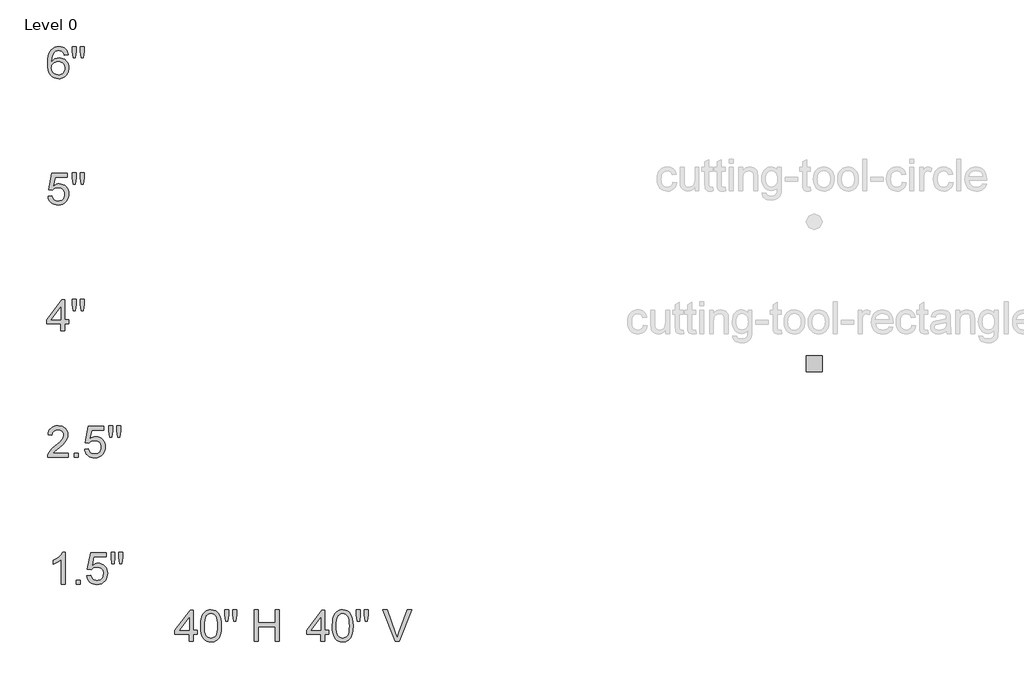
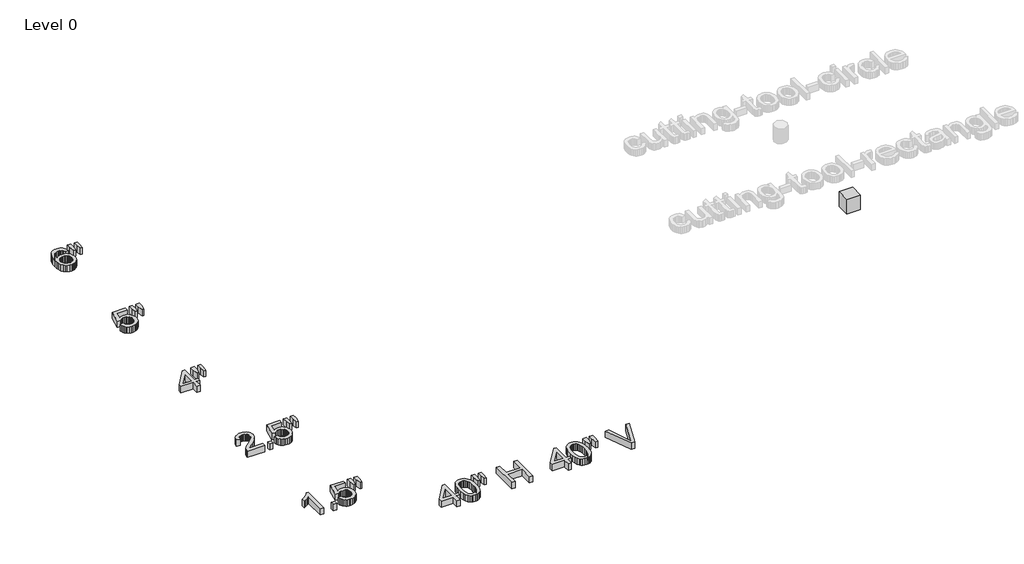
# One storey, part 1 of 3: 8 proxies.
"""IFC4 building model written with IfcOpenShell, lengths in millimetres."""

from ifc_helpers import new_model, si_unit, origin, origin_with_axes, place, context, project, spatial, polyline, outline, extrude, transform, mapped, element, save
from components import kingspan_ks_cutting_tool_rectangle_cutting_tool_rectangle_f435e5aa

model = new_model("IFC4")

# Units and contexts
model_context = context("Model", 3, world=origin())
ifc_project = project(units=[si_unit("LENGTHUNIT", "METRE", prefix="MILLI")], contexts=[model_context])

# Site, building, storey
site = spatial("IfcSite", under=ifc_project)
building = spatial("IfcBuilding", under=site)
storey = spatial("IfcBuildingStorey", under=building, Name="Level 0", Elevation=0.0)

# Proxies
placement = place(None, origin())
element("IfcBuildingElementProxy", 1, Name="24\" Arial", ObjectType="24\" Arial", at=placement, inside=storey, context=model_context, shape_type="SweptSolid", body=[
    extrude(outline(polyline([(-11504.7389752, 3788.2309385), (-11580.8807487, 3788.2309385), (-11580.8807487, 4262.9273078), (-11612.668452, 4237.2183056), (-11653.0072334, 4211.5464821), (-11695.3536592, 4189.1091968), (-11733.1642957, 4173.1038093), (-11733.1642957, 4245.0815796), (-11673.3625171, 4277.6128549), (-11621.5541375, 4316.3157779), (-11580.713445, 4357.4724884), (-11553.8147277, 4397.3651266), (-11504.7389752, 4397.3651266), (-11504.7389752, 3788.2309385)])), origin_with_axes(), (0.0, 0.0, 1.0), 152.4),
    extrude(outline(polyline([(-11285.8313763, 3788.2309385), (-11285.8313763, 3864.372712), (-11209.6896028, 3864.372712), (-11209.6896028, 3788.2309385), (-11285.8313763, 3788.2309385)])), origin_with_axes(), (0.0, 0.0, 1.0), 152.4),
    extrude(outline(polyline([(-11085.9592209, 3950.0322072), (-11009.8174473, 3959.5499289), (-11004.1291215, 3935.0724679), (-10995.8382936, 3913.8388398), (-10984.9449637, 3895.8490445), (-10971.4491318, 3881.1030822), (-10955.3786818, 3869.619542), (-10936.7614976, 3861.4170133), (-10915.5975794, 3856.4954961), (-10891.886927, 3854.8549903), (-10862.8876187, 3857.1368269), (-10837.3087417, 3863.9823367), (-10815.1502959, 3875.3915197), (-10796.4122813, 3891.3643759), (-10781.5129572, 3911.11086), (-10770.8705829, 3933.8409268), (-10764.4851583, 3959.5545762), (-10762.3566834, 3988.2518084), (-10764.3503858, 4015.3735973), (-10770.3314932, 4039.4839196), (-10780.3000054, 4060.5827753), (-10794.2559225, 4078.6701644), (-10812.2457177, 4093.1791132), (-10834.3158644, 4103.5426481), (-10860.4663624, 4109.760769), (-10890.6972118, 4111.8334759), (-10927.6341513, 4108.5245805), (-10957.5443352, 4098.5978942), (-10981.431586, 4083.3918467), (-11000.2997256, 4064.2448675), (-11076.4414992, 4073.7625892), (-11009.8174473, 4387.8474049), (-10714.768075, 4387.8474049), (-10714.768075, 4311.7056314), (-10948.2496852, 4311.7056314), (-10980.8181391, 4143.9557866), (-10953.9473057, 4163.2143016), (-10926.4258467, 4176.9703837), (-10898.2537623, 4185.224033), (-10869.4310524, 4187.9752494), (-10832.3500459, 4184.5641129), (-10798.2898006, 4174.3307031), (-10767.2503167, 4157.2750202), (-10739.231594, 4133.3970641), (-10716.0367947, 4104.156095), (-10699.4690809, 4071.0113727), (-10689.5284526, 4033.9628975), (-10686.2149099, 3993.0106692), (-10689.1984926, 3953.5641742), (-10698.1492406, 3916.8688957), (-10713.067154, 3882.9248336), (-10733.9522327, 3851.7319879), (-10765.5912216, 3819.7862755), (-10802.5095718, 3796.9679096), (-10844.7072832, 3783.27689), (-10892.1843558, 3778.7132168), (-10931.4774891, 3781.6456789), (-10966.9691104, 3790.4430652), (-10998.6592199, 3805.1053757), (-11026.5478175, 3825.6326104), (-11049.7519114, 3851.0023578), (-11067.38851, 3880.1922064), (-11079.4576131, 3913.2021562), (-11085.9592209, 3950.0322072)])), origin_with_axes(), (0.0, 0.0, 1.0), 152.4),
    extrude(outline(polyline([(-10601.0015579, 4178.4575278), (-10619.5908581, 4296.0906193), (-10619.5908581, 4397.3651266), (-10543.4490845, 4397.3651266), (-10543.4490845, 4296.0906193), (-10560.1050975, 4178.4575278), (-10601.0015579, 4178.4575278)])), origin_with_axes(), (0.0, 0.0, 1.0), 152.4),
    extrude(outline(polyline([(-10449.1641541, 4178.4575278), (-10467.307311, 4296.0906193), (-10467.307311, 4397.3651266), (-10391.1655375, 4397.3651266), (-10391.1655375, 4296.0906193), (-10409.0112657, 4178.4575278), (-10449.1641541, 4178.4575278)])), origin_with_axes(), (0.0, 0.0, 1.0), 152.4),
])
element("IfcBuildingElementProxy", 2, Name="24\" Arial", ObjectType="24\" Arial", at=placement, inside=storey, context=model_context, shape_type="SweptSolid", body=[
    extrude(outline(polyline([(-11444.0756511, 6305.7351224), (-11444.0756511, 6229.5933489), (-11843.8199621, 6229.5933489), (-11842.146925, 6256.3991197), (-11835.64067, 6282.0895326), (-11816.8654768, 6323.1161181), (-11789.3904911, 6362.9158097), (-11749.6465674, 6404.5744314), (-11694.0645598, 6451.177807), (-11611.8998531, 6524.1593994), (-11562.601029, 6578.0311914), (-11548.2222053, 6600.0409228), (-11537.951617, 6621.7532254), (-11531.789264, 6643.1680992), (-11529.7351463, 6664.2855442), (-11531.6730808, 6684.1528587), (-11537.4868845, 6702.4121988), (-11547.1765572, 6719.0635645), (-11560.742099, 6734.1069556), (-11577.4306432, 6746.5664341), (-11596.4893232, 6755.4660615), (-11617.918139, 6760.805838), (-11641.7170906, 6762.5857635), (-11666.7894092, 6760.8476639), (-11689.2127525, 6755.6333652), (-11708.9871206, 6746.9428674), (-11726.1125133, 6734.7761704), (-11739.9661893, 6719.5422389), (-11749.9254069, 6701.6500375), (-11755.9901661, 6681.0995662), (-11758.1604669, 6657.8908249), (-11834.3022404, 6667.4085466), (-11827.7541594, 6706.7156218), (-11815.8430653, 6741.0593539), (-11798.5689581, 6770.4397428), (-11775.9318378, 6794.8567886), (-11748.4522048, 6814.050241), (-11716.6505596, 6827.7598499), (-11680.526902, 6835.9856152), (-11640.0812321, 6838.727537), (-11599.2730709, 6835.6788918), (-11562.9542257, 6826.5329561), (-11531.1246965, 6811.28973), (-11503.7844833, 6789.9492134), (-11481.8258724, 6764.0914968), (-11466.1411504, 6735.2966708), (-11456.7303172, 6703.5647354), (-11453.5933728, 6668.8956906), (-11456.9766254, 6632.4792516), (-11467.1263833, 6596.6948487), (-11485.1394152, 6560.296999), (-11512.1124897, 6522.0402192), (-11555.109541, 6476.3663087), (-11621.1945032, 6417.7170666), (-11708.7872856, 6344.475224), (-11743.1403123, 6305.7351224), (-11444.0756511, 6305.7351224)])), origin_with_axes(), (0.0, 0.0, 1.0), 152.4),
    extrude(outline(polyline([(-11329.8629908, 6229.5933489), (-11329.8629908, 6305.7351224), (-11253.7212173, 6305.7351224), (-11253.7212173, 6229.5933489), (-11329.8629908, 6229.5933489)])), origin_with_axes(), (0.0, 0.0, 1.0), 152.4),
    extrude(outline(polyline([(-11129.9908353, 6391.3946176), (-11053.8490618, 6400.9123393), (-11048.160736, 6376.4348783), (-11039.8699081, 6355.2012502), (-11028.9765782, 6337.2114549), (-11015.4807463, 6322.4654925), (-10999.4102963, 6310.9819524), (-10980.7931121, 6302.7794237), (-10959.6291939, 6297.8579064), (-10935.9185415, 6296.2174007), (-10906.9192332, 6298.4992373), (-10881.3403562, 6305.3447471), (-10859.1819104, 6316.7539301), (-10840.4438958, 6332.7267862), (-10825.5445717, 6352.4732704), (-10814.9021974, 6375.2033371), (-10808.5167728, 6400.9169866), (-10806.3882979, 6429.6142188), (-10808.3820003, 6456.7360077), (-10814.3631077, 6480.84633), (-10824.3316199, 6501.9451857), (-10838.287537, 6520.0325748), (-10856.2773322, 6534.5415236), (-10878.3474789, 6544.9050584), (-10904.4979769, 6551.1231794), (-10934.7288263, 6553.1958863), (-10971.6657657, 6549.8869909), (-11001.5759497, 6539.9603046), (-11025.4632005, 6524.7542571), (-11044.3313401, 6505.6072779), (-11120.4731136, 6515.1249996), (-11053.8490618, 6829.2098153), (-10758.7996894, 6829.2098153), (-10758.7996894, 6753.0680418), (-10992.2812996, 6753.0680418), (-11024.8497535, 6585.318197), (-10997.9789201, 6604.576712), (-10970.4574612, 6618.3327941), (-10942.2853768, 6626.5864434), (-10913.4626669, 6629.3376598), (-10876.3816604, 6625.9265233), (-10842.3214151, 6615.6931135), (-10811.2819312, 6598.6374306), (-10783.2632085, 6574.7594745), (-10760.0684092, 6545.5185053), (-10743.5006954, 6512.3737831), (-10733.5600671, 6475.3253079), (-10730.2465244, 6434.3730796), (-10733.230107, 6394.9265846), (-10742.1808551, 6358.2313061), (-10757.0987685, 6324.287244), (-10777.9838472, 6293.0943983), (-10809.6228361, 6261.1486859), (-10846.5411863, 6238.33032), (-10888.7388977, 6224.6393004), (-10936.2159703, 6220.0756272), (-10975.5091036, 6223.0080893), (-11011.0007249, 6231.8054756), (-11042.6908344, 6246.4677861), (-11070.579432, 6266.9950208), (-11093.7835259, 6292.3647682), (-11111.4201245, 6321.5546168), (-11123.4892276, 6354.5645666), (-11129.9908353, 6391.3946176)])), origin_with_axes(), (0.0, 0.0, 1.0), 152.4),
    extrude(outline(polyline([(-10645.0331724, 6619.8199381), (-10663.6224725, 6737.4530297), (-10663.6224725, 6838.727537), (-10587.480699, 6838.727537), (-10587.480699, 6737.4530297), (-10604.136712, 6619.8199381), (-10645.0331724, 6619.8199381)])), origin_with_axes(), (0.0, 0.0, 1.0), 152.4),
    extrude(outline(polyline([(-10493.1957685, 6619.8199381), (-10511.3389255, 6737.4530297), (-10511.3389255, 6838.727537), (-10435.197152, 6838.727537), (-10435.197152, 6737.4530297), (-10453.0428802, 6619.8199381), (-10493.1957685, 6619.8199381)])), origin_with_axes(), (0.0, 0.0, 1.0), 152.4),
])
element("IfcBuildingElementProxy", 3, Name="24\" Arial", ObjectType="24\" Arial", at=placement, inside=storey, context=model_context, shape_type="SweptSolid", body=[
    extrude(outline(polyline([(-9111.1054643, 2680.3448347), (-9111.1054643, 2823.1106601), (-9387.1193933, 2823.1106601), (-9387.1193933, 2899.2524336), (-9092.0700209, 3279.9613012), (-9034.9636908, 3279.9613012), (-9034.9636908, 2899.2524336), (-8958.8219173, 2899.2524336), (-8958.8219173, 2823.1106601), (-9034.9636908, 2823.1106601), (-9034.9636908, 2680.3448347), (-9111.1054643, 2680.3448347)]), holes=[polyline([(-9111.1054643, 2899.2524336), (-9111.1054643, 3134.5186166), (-9293.4293204, 2899.2524336), (-9111.1054643, 2899.2524336)])]), origin_with_axes(), (0.0, 0.0, 1.0), 152.4),
    extrude(outline(polyline([(-8892.1978655, 2980.0043536), (-8886.6024861, 3077.505233), (-8879.6082619, 3118.8524839), (-8869.816348, 3155.2642756), (-8857.2685704, 3187.0380369), (-8842.006755, 3214.4711967), (-8824.0309017, 3237.5637548), (-8803.3410106, 3256.3157114), (-8779.8673718, 3270.8246601), (-8753.5402754, 3281.188195), (-8724.3597215, 3287.4063159), (-8692.32571, 3289.4790229), (-8645.4063163, 3284.5714476), (-8603.3944979, 3269.8487219), (-8568.2607206, 3245.887114), (-8541.9754502, 3213.2628921), (-8522.1220776, 3172.254896), (-8506.2839938, 3123.1419649), (-8495.9111643, 3060.7748628), (-8492.4535545, 2980.0043536), (-8497.9931659, 2883.0611531), (-8504.9176803, 2841.853322), (-8514.6120003, 2805.4880035), (-8527.0621841, 2773.7003002), (-8542.2542897, 2746.2253146), (-8560.188317, 2723.0630465), (-8580.8642661, 2704.2134962), (-8604.3657889, 2689.6069535), (-8630.7765371, 2679.1737088), (-8660.0965108, 2672.913762), (-8692.32571, 2670.827113), (-8734.2631712, 2674.4520266), (-8771.4417715, 2685.3267672), (-8803.861511, 2703.4513348), (-8831.5223897, 2728.8257296), (-8858.0679103, 2774.6948278), (-8877.0289965, 2831.8476312), (-8888.4056482, 2900.2841398), (-8892.1978655, 2980.0043536)]), holes=[polyline([(-8816.0560919, 2980.153068), (-8813.8253759, 2913.9612174), (-8807.1332279, 2860.3822069), (-8795.9796477, 2819.4160367), (-8780.3646356, 2791.0627066), (-8761.4779066, 2771.7716603), (-8740.509176, 2757.9923416), (-8717.4584438, 2749.7247503), (-8692.32571, 2746.9688866), (-8667.1929761, 2749.734045), (-8644.1422439, 2758.0295202), (-8623.1735133, 2771.8553122), (-8604.2867843, 2791.211421), (-8588.6717722, 2819.6112243), (-8577.5181921, 2860.5680999), (-8570.826044, 2914.0820478), (-8568.595328, 2980.153068), (-8570.7516868, 3044.592877), (-8577.2207633, 3097.2284805), (-8588.0025574, 3138.0598783), (-8603.0970691, 3167.0870705), (-8621.66778, 3187.3215238), (-8642.8781715, 3201.7747046), (-8666.7282436, 3210.4466132), (-8693.2179964, 3213.3372494), (-8718.2206051, 3210.7905152), (-8740.880962, 3203.1503129), (-8761.1990671, 3190.4166422), (-8779.1749204, 3172.5895034), (-8795.3104329, 3140.9876931), (-8806.835799, 3098.3810171), (-8813.7510187, 3044.7694754), (-8816.0560919, 2980.153068)])]), origin_with_axes(), (0.0, 0.0, 1.0), 152.4),
    extrude(outline(polyline([(-8407.2402025, 3070.571424), (-8425.8295027, 3188.2045155), (-8425.8295027, 3289.4790229), (-8349.6877291, 3289.4790229), (-8349.6877291, 3188.2045155), (-8366.3437421, 3070.571424), (-8407.2402025, 3070.571424)])), origin_with_axes(), (0.0, 0.0, 1.0), 152.4),
    extrude(outline(polyline([(-8255.4027987, 3070.571424), (-8273.5459556, 3188.2045155), (-8273.5459556, 3289.4790229), (-8197.4041821, 3289.4790229), (-8197.4041821, 3188.2045155), (-8215.2499103, 3070.571424), (-8255.4027987, 3070.571424)])), origin_with_axes(), (0.0, 0.0, 1.0), 152.4),
    extrude(outline(polyline([(-7854.7662013, 2680.3448347), (-7854.7662013, 3289.4790229), (-7778.6244278, 3289.4790229), (-7778.6244278, 3042.0182589), (-7455.0218903, 3042.0182589), (-7455.0218903, 3289.4790229), (-7378.8801168, 3289.4790229), (-7378.8801168, 2680.3448347), (-7455.0218903, 2680.3448347), (-7455.0218903, 2965.8764854), (-7778.6244278, 2965.8764854), (-7778.6244278, 2680.3448347), (-7854.7662013, 2680.3448347)])), origin_with_axes(), (0.0, 0.0, 1.0), 152.4),
])
element("IfcBuildingElementProxy", 4, Name="24\" Arial", ObjectType="24\" Arial", at=placement, inside=storey, context=model_context, shape_type="SweptSolid", body=[
    extrude(outline(polyline([(-6571.1054643, 2680.3448347), (-6571.1054643, 2823.1106601), (-6847.1193933, 2823.1106601), (-6847.1193933, 2899.2524336), (-6552.0700209, 3279.9613012), (-6494.9636908, 3279.9613012), (-6494.9636908, 2899.2524336), (-6418.8219173, 2899.2524336), (-6418.8219173, 2823.1106601), (-6494.9636908, 2823.1106601), (-6494.9636908, 2680.3448347), (-6571.1054643, 2680.3448347)]), holes=[polyline([(-6571.1054643, 2899.2524336), (-6571.1054643, 3134.5186166), (-6753.4293204, 2899.2524336), (-6571.1054643, 2899.2524336)])]), origin_with_axes(), (0.0, 0.0, 1.0), 152.4),
    extrude(outline(polyline([(-6352.1978655, 2980.0043536), (-6346.6024861, 3077.505233), (-6339.6082619, 3118.8524839), (-6329.816348, 3155.2642756), (-6317.2685704, 3187.0380369), (-6302.006755, 3214.4711967), (-6284.0309017, 3237.5637548), (-6263.3410106, 3256.3157114), (-6239.8673718, 3270.8246601), (-6213.5402754, 3281.188195), (-6184.3597215, 3287.4063159), (-6152.32571, 3289.4790229), (-6105.4063163, 3284.5714476), (-6063.3944979, 3269.8487219), (-6028.2607206, 3245.887114), (-6001.9754502, 3213.2628921), (-5982.1220776, 3172.254896), (-5966.2839938, 3123.1419649), (-5955.9111643, 3060.7748628), (-5952.4535545, 2980.0043536), (-5957.9931659, 2883.0611531), (-5964.9176803, 2841.853322), (-5974.6120003, 2805.4880035), (-5987.0621841, 2773.7003002), (-6002.2542897, 2746.2253146), (-6020.188317, 2723.0630465), (-6040.8642661, 2704.2134962), (-6064.3657889, 2689.6069535), (-6090.7765371, 2679.1737088), (-6120.0965108, 2672.913762), (-6152.32571, 2670.827113), (-6194.2631712, 2674.4520266), (-6231.4417715, 2685.3267672), (-6263.861511, 2703.4513348), (-6291.5223897, 2728.8257296), (-6318.0679103, 2774.6948278), (-6337.0289965, 2831.8476312), (-6348.4056482, 2900.2841398), (-6352.1978655, 2980.0043536)]), holes=[polyline([(-6276.0560919, 2980.153068), (-6273.8253759, 2913.9612174), (-6267.1332279, 2860.3822069), (-6255.9796477, 2819.4160367), (-6240.3646356, 2791.0627066), (-6221.4779066, 2771.7716603), (-6200.509176, 2757.9923416), (-6177.4584438, 2749.7247503), (-6152.32571, 2746.9688866), (-6127.1929761, 2749.734045), (-6104.1422439, 2758.0295202), (-6083.1735133, 2771.8553122), (-6064.2867843, 2791.211421), (-6048.6717722, 2819.6112243), (-6037.5181921, 2860.5680999), (-6030.826044, 2914.0820478), (-6028.595328, 2980.153068), (-6030.7516868, 3044.592877), (-6037.2207633, 3097.2284805), (-6048.0025574, 3138.0598783), (-6063.0970691, 3167.0870705), (-6081.66778, 3187.3215238), (-6102.8781715, 3201.7747046), (-6126.7282436, 3210.4466132), (-6153.2179964, 3213.3372494), (-6178.2206051, 3210.7905152), (-6200.880962, 3203.1503129), (-6221.1990671, 3190.4166422), (-6239.1749204, 3172.5895034), (-6255.3104329, 3140.9876931), (-6266.835799, 3098.3810171), (-6273.7510187, 3044.7694754), (-6276.0560919, 2980.153068)])]), origin_with_axes(), (0.0, 0.0, 1.0), 152.4),
    extrude(outline(polyline([(-5867.2402025, 3070.571424), (-5885.8295027, 3188.2045155), (-5885.8295027, 3289.4790229), (-5809.6877291, 3289.4790229), (-5809.6877291, 3188.2045155), (-5826.3437421, 3070.571424), (-5867.2402025, 3070.571424)])), origin_with_axes(), (0.0, 0.0, 1.0), 152.4),
    extrude(outline(polyline([(-5715.4027987, 3070.571424), (-5733.5459556, 3188.2045155), (-5733.5459556, 3289.4790229), (-5657.4041821, 3289.4790229), (-5657.4041821, 3188.2045155), (-5675.2499103, 3070.571424), (-5715.4027987, 3070.571424)])), origin_with_axes(), (0.0, 0.0, 1.0), 152.4),
    extrude(outline(polyline([(-5134.8217756, 2680.3448347), (-5377.2262499, 3289.4790229), (-5295.7307579, 3289.4790229), (-5133.483346, 2850.6228243), (-5100.6174633, 2751.7277474), (-5068.1977238, 2850.6228243), (-4905.5041686, 3289.4790229), (-4824.0086767, 3289.4790229), (-5056.1518572, 2680.3448347), (-5134.8217756, 2680.3448347)])), origin_with_axes(), (0.0, 0.0, 1.0), 152.4),
])
element("IfcBuildingElementProxy", 5, Name="24\" Arial", ObjectType="24\" Arial", at=placement, inside=storey, context=model_context, shape_type="SweptSolid", body=[
    extrude(outline(polyline([(-11586.8414764, 8667.9933489), (-11586.8414764, 8810.7591742), (-11862.8554054, 8810.7591742), (-11862.8554054, 8886.9009477), (-11567.8060331, 9267.6098153), (-11510.6997029, 9267.6098153), (-11510.6997029, 8886.9009477), (-11434.5579294, 8886.9009477), (-11434.5579294, 8810.7591742), (-11510.6997029, 8810.7591742), (-11510.6997029, 8667.9933489), (-11586.8414764, 8667.9933489)]), holes=[polyline([(-11586.8414764, 8886.9009477), (-11586.8414764, 9122.1671308), (-11769.1653326, 8886.9009477), (-11586.8414764, 8886.9009477)])]), origin_with_axes(), (0.0, 0.0, 1.0), 152.4),
    extrude(outline(polyline([(-11349.3445774, 9058.2199381), (-11367.9338776, 9175.8530297), (-11367.9338776, 9277.127537), (-11291.7921041, 9277.127537), (-11291.7921041, 9175.8530297), (-11308.448117, 9058.2199381), (-11349.3445774, 9058.2199381)])), origin_with_axes(), (0.0, 0.0, 1.0), 152.4),
    extrude(outline(polyline([(-11197.5071736, 9058.2199381), (-11215.6503305, 9175.8530297), (-11215.6503305, 9277.127537), (-11139.508557, 9277.127537), (-11139.508557, 9175.8530297), (-11157.3542852, 9058.2199381), (-11197.5071736, 9058.2199381)])), origin_with_axes(), (0.0, 0.0, 1.0), 152.4),
])
element("IfcBuildingElementProxy", 6, Name="24\" Arial", ObjectType="24\" Arial", at=placement, inside=storey, context=model_context, shape_type="SweptSolid", body=[
    extrude(outline(polyline([(-11834.3022404, 11268.1946176), (-11758.1604669, 11277.7123393), (-11752.472141, 11253.2348783), (-11744.1813131, 11232.0012502), (-11733.2879832, 11214.0114549), (-11719.7921513, 11199.2654925), (-11703.7217013, 11187.7819524), (-11685.1045172, 11179.5794237), (-11663.9405989, 11174.6579064), (-11640.2299465, 11173.0174007), (-11611.2306383, 11175.2992373), (-11585.6517612, 11182.1447471), (-11563.4933154, 11193.5539301), (-11544.7553008, 11209.5267862), (-11529.8559768, 11229.2732704), (-11519.2136024, 11252.0033371), (-11512.8281778, 11277.7169866), (-11510.6997029, 11306.4142188), (-11512.6934054, 11333.5360077), (-11518.6745127, 11357.64633), (-11528.6430249, 11378.7451857), (-11542.598942, 11396.8325748), (-11560.5887373, 11411.3415236), (-11582.6588839, 11421.7050584), (-11608.8093819, 11427.9231794), (-11639.0402313, 11429.9958863), (-11675.9771708, 11426.6869909), (-11705.8873548, 11416.7603046), (-11729.7746055, 11401.5542571), (-11748.6427452, 11382.4072779), (-11824.7845187, 11391.9249996), (-11758.1604669, 11706.0098153), (-11463.1110945, 11706.0098153), (-11463.1110945, 11629.8680418), (-11696.5927047, 11629.8680418), (-11729.1611586, 11462.118197), (-11702.2903252, 11481.376712), (-11674.7688663, 11495.1327941), (-11646.5967818, 11503.3864434), (-11617.7740719, 11506.1376598), (-11580.6930654, 11502.7265233), (-11546.6328202, 11492.4931135), (-11515.5933362, 11475.4374306), (-11487.5746135, 11451.5594745), (-11464.3798142, 11422.3185053), (-11447.8121004, 11389.1737831), (-11437.8714722, 11352.1253079), (-11434.5579294, 11311.1730796), (-11437.5415121, 11271.7265846), (-11446.4922601, 11235.0313061), (-11461.4101735, 11201.087244), (-11482.2952523, 11169.8943983), (-11513.9342412, 11137.9486859), (-11550.8525913, 11115.13032), (-11593.0503027, 11101.4393004), (-11640.5273753, 11096.8756272), (-11679.8205086, 11099.8080893), (-11715.3121299, 11108.6054756), (-11747.0022394, 11123.2677861), (-11774.890837, 11143.7950208), (-11798.094931, 11169.1647682), (-11815.7315295, 11198.3546168), (-11827.8006326, 11231.3645666), (-11834.3022404, 11268.1946176)])), origin_with_axes(), (0.0, 0.0, 1.0), 152.4),
    extrude(outline(polyline([(-11349.3445774, 11496.6199381), (-11367.9338776, 11614.2530297), (-11367.9338776, 11715.527537), (-11291.7921041, 11715.527537), (-11291.7921041, 11614.2530297), (-11308.448117, 11496.6199381), (-11349.3445774, 11496.6199381)])), origin_with_axes(), (0.0, 0.0, 1.0), 152.4),
    extrude(outline(polyline([(-11197.5071736, 11496.6199381), (-11215.6503305, 11614.2530297), (-11215.6503305, 11715.527537), (-11139.508557, 11715.527537), (-11139.508557, 11614.2530297), (-11157.3542852, 11496.6199381), (-11197.5071736, 11496.6199381)])), origin_with_axes(), (0.0, 0.0, 1.0), 152.4),
])
element("IfcBuildingElementProxy", 7, Name="24\" Arial", ObjectType="24\" Arial", at=placement, inside=storey, context=model_context, shape_type="SweptSolid", body=[
    extrude(outline(polyline([(-11444.0756511, 13992.1262683), (-11520.2174246, 13982.6085466), (-11532.4863627, 14020.344826), (-11549.0680185, 14046.109596), (-11565.4358973, 14059.9679193), (-11583.6069382, 14069.8667216), (-11603.5811412, 14075.806003), (-11625.3585064, 14077.7857635), (-11660.7525339, 14073.1756171), (-11694.0645598, 14059.3451777), (-11722.6734928, 14030.2157443), (-11746.0402431, 13990.1186239), (-11755.1722368, 13964.5443942), (-11761.822559, 13933.402669), (-11767.6781885, 13854.4167326), (-11737.1359684, 13890.052421), (-11700.5336363, 13915.1665656), (-11659.9160154, 13930.056595), (-11617.3279287, 13935.0199381), (-11580.744186, 13931.6273909), (-11546.9860169, 13921.449749), (-11516.0534214, 13904.4870126), (-11487.9463995, 13880.7391816), (-11464.5889438, 13851.6190429), (-11447.9050469, 13818.5393833), (-11437.8947088, 13781.5002027), (-11434.5579294, 13740.5015011), (-11436.1287253, 13712.7430286), (-11440.8411129, 13685.9790837), (-11448.6950922, 13660.2096663), (-11459.6906632, 13635.4347765), (-11473.4374507, 13612.579232), (-11489.5450793, 13592.5678503), (-11508.013549, 13575.4006316), (-11528.8428599, 13561.0775758), (-11551.5868687, 13549.7892233), (-11575.7994321, 13541.7261143), (-11601.4805503, 13536.888249), (-11628.6302232, 13535.2756272), (-11674.0206469, 13539.5511662), (-11715.0147011, 13552.3777833), (-11751.6123859, 13573.7554785), (-11783.8137011, 13603.6842518), (-11810.0664403, 13643.4281756), (-11828.8183968, 13694.2513223), (-11840.0695707, 13756.1536919), (-11843.8199621, 13829.1352844), (-11839.6559588, 13910.9560891), (-11827.1639491, 13980.7867952), (-11806.3439329, 14038.6274027), (-11792.8109224, 14063.0514194), (-11777.1959102, 14084.4779116), (-11745.6033946, 14114.8621227), (-11708.9731786, 14136.5651306), (-11667.3052622, 14149.5869354), (-11620.5996456, 14153.927537), (-11585.5309308, 14151.2413831), (-11553.7897007, 14143.1829215), (-11525.3759554, 14129.7521521), (-11500.2896948, 14110.949075), (-11479.2094284, 14087.4057263), (-11462.8136657, 14059.7541423), (-11451.1024066, 14027.994323), (-11444.0756511, 13992.1262683)]), holes=[polyline([(-11767.6781885, 13741.6912163), (-11763.2725244, 13707.9516365), (-11750.055532, 13675.7363793), (-11729.5329446, 13648.038322), (-11703.2104955, 13627.8503421), (-11671.4413815, 13615.525636), (-11634.5787993, 13611.4174007), (-11608.1122832, 13613.5458756), (-11584.3319209, 13619.9313002), (-11563.2377125, 13630.5736745), (-11544.829658, 13645.4729986), (-11529.8978027, 13664.0251202), (-11519.2321917, 13685.625887), (-11512.8328251, 13710.275299), (-11510.6997029, 13737.9733563), (-11512.8049412, 13764.5885868), (-11519.1206559, 13788.2202347), (-11529.6468471, 13808.8682998), (-11544.3835148, 13826.5327823), (-11562.8473372, 13840.6838871), (-11584.5549925, 13850.7918191), (-11609.5064807, 13856.8565782), (-11637.7018017, 13858.8781646), (-11663.8151211, 13856.8565782), (-11687.8743229, 13850.7918191), (-11709.879407, 13840.6838871), (-11729.8303734, 13826.5327823), (-11746.3887925, 13809.1006661), (-11758.2162348, 13789.1496997), (-11765.3127001, 13766.6798831), (-11767.6781885, 13741.6912163)])]), origin_with_axes(), (0.0, 0.0, 1.0), 152.4),
    extrude(outline(polyline([(-11349.3445774, 13935.0199381), (-11367.9338776, 14052.6530297), (-11367.9338776, 14153.927537), (-11291.7921041, 14153.927537), (-11291.7921041, 14052.6530297), (-11308.448117, 13935.0199381), (-11349.3445774, 13935.0199381)])), origin_with_axes(), (0.0, 0.0, 1.0), 152.4),
    extrude(outline(polyline([(-11197.5071736, 13935.0199381), (-11215.6503305, 14052.6530297), (-11215.6503305, 14153.927537), (-11139.508557, 14153.927537), (-11139.508557, 14052.6530297), (-11157.3542852, 13935.0199381), (-11197.5071736, 13935.0199381)])), origin_with_axes(), (0.0, 0.0, 1.0), 152.4),
])
kingspan_ks_cutting_tool_rectangle_cutting_tool_rectangle_shape = kingspan_ks_cutting_tool_rectangle_cutting_tool_rectangle_f435e5aa(model_context)
element("IfcBuildingElementProxy", 8, Name="kingspan-ks-cutting-tool-rectangle : cutting-tool-rectangle", ObjectType="kingspan-ks-cutting-tool-rectangle : cutting-tool-rectangle", at=placement, inside=storey, context=model_context, shape_type="MappedRepresentation", body=[
    mapped(kingspan_ks_cutting_tool_rectangle_cutting_tool_rectangle_shape, transform((2945.9274021, 8038.6387094, 0.0), x_axis=(1.0, 0.0, 0.0), y_axis=(0.0, 1.0, 0.0), z_axis=(0.0, 0.0, 1.0))),
])

save(model, "model.ifc")
